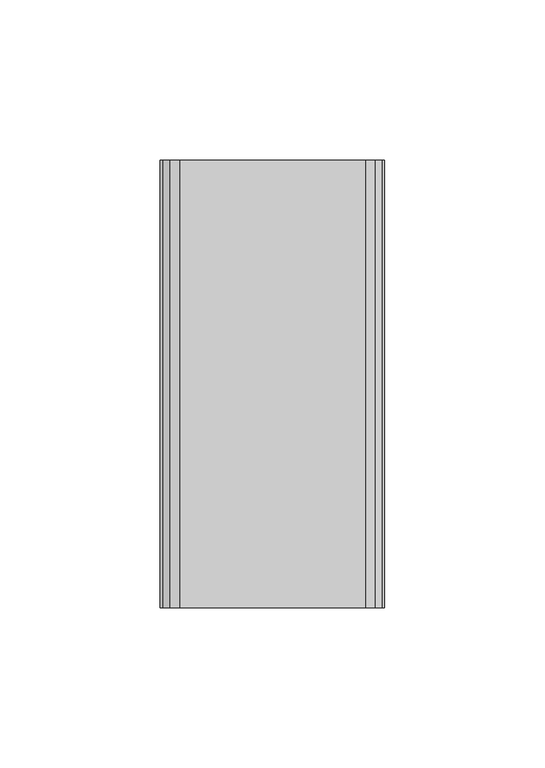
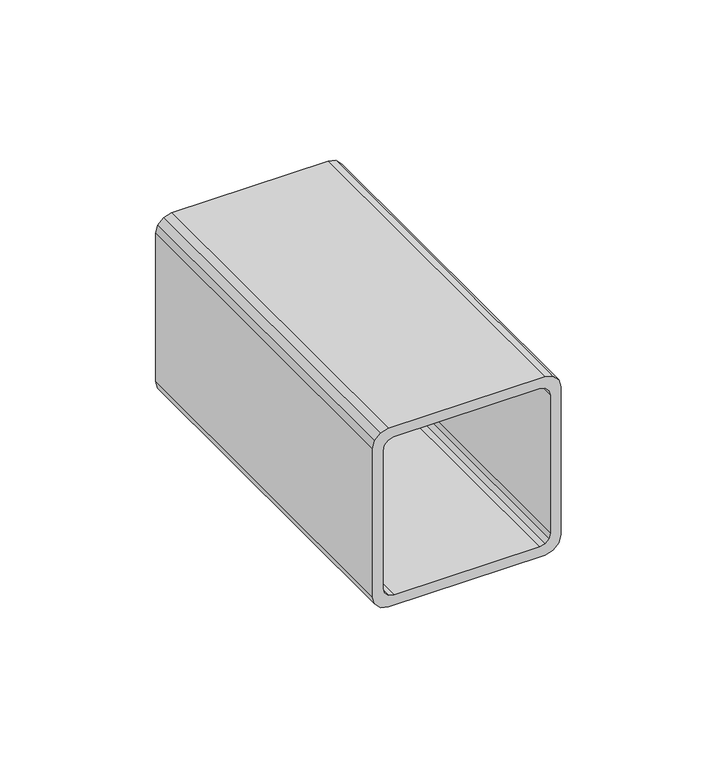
"""IFC4 building model written with IfcOpenShell, lengths in millimetres: beam geometry,  173248 :  173248."""

from ifc_helpers import new_model, si_unit, frame, origin, place, context, project, spatial, polyline, outline, extrude, source, transform, mapped, element, save


def beam_a0843e49(model_context):
    return source(origin(), model_context, "Body", "SweptSolid", [
        extrude(outline(polyline([(90.9478709, 22.8791579), (87.9478709, 23.6830055), (85.7517184, 25.8791579), (84.9478709, 28.8791579), (84.9478709, 86.8791579), (85.7517184, 89.8791579), (87.9478709, 92.0753103), (90.9478709, 92.8791579), (148.9478709, 92.8791579), (151.9478709, 92.0753103), (154.1440233, 89.8791579), (154.9478709, 86.8791579), (154.9478709, 28.8791579), (154.1440233, 25.8791579), (151.9478709, 23.6830055), (148.9478709, 22.8791579), (90.9478709, 22.8791579)]), holes=[polyline([(146.9478709, 26.8791579), (148.9478709, 27.4150563), (150.4119725, 28.8791579), (150.9478709, 30.8791579), (150.9478709, 84.8791579), (150.4119725, 86.8791579), (148.9478709, 88.3432595), (146.9478709, 88.8791579), (92.9478709, 88.8791579), (90.9478709, 88.3432595), (89.4837692, 86.8791579), (88.9478709, 84.8791579), (88.9478709, 30.8791579), (89.4837692, 28.8791579), (90.9478709, 27.4150563), (92.9478709, 26.8791579), (146.9478709, 26.8791579)])]), frame((0.0, -114.45, 0.0), z_axis=(0.0, 1.0, 0.0), x_axis=(0.0, 0.0, 1.0)), (0.0, 0.0, 1.0), 139.45),
    ])


if __name__ == "__main__":
    model = new_model("IFC4")
    model_context = context("Model", 3, world=origin())
    ifc_project = project(units=[si_unit("LENGTHUNIT", "METRE", prefix="MILLI")], contexts=[model_context])
    site = spatial("IfcSite", under=ifc_project)
    building = spatial("IfcBuilding", under=site)
    placement = place(None, origin())
    beam_shape = beam_a0843e49(model_context)
    element("IfcBeam", 1, ObjectType=" 173248 :  173248", at=placement, inside=building, context=model_context, shape_type="MappedRepresentation", body=[
        mapped(beam_shape, transform((0.0, 0.0, 0.0), x_axis=(1.0, 0.0, 0.0), y_axis=(0.0, 1.0, 0.0), z_axis=(0.0, 0.0, 1.0))),
    ])
    save(model, "model.ifc")
